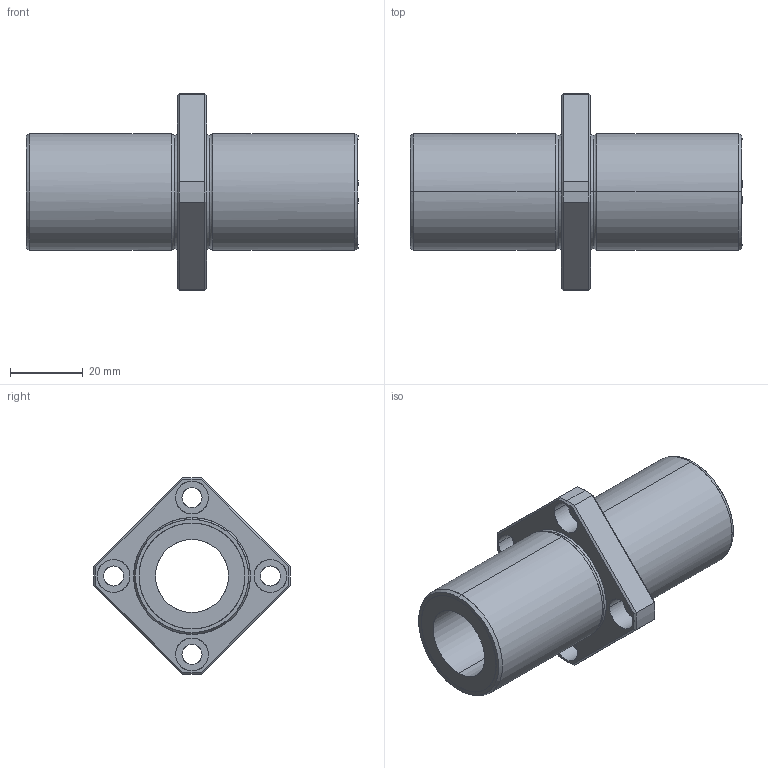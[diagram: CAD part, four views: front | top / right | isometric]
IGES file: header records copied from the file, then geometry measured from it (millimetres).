
Global section: file name: No Iges File Name specified; native system: AutoDesk Inventor R10; preprocessor: AutoDesk Inventor Iges Exporter R10; author: No Author specified; organization: No Organization specified; date: 20101216.153544; units: millimetre
Bounding box: 91 x 54 x 54 mm (x, y, z)
Surface area: 18665 mm2 (no closed solid volume)
Topology: 0 solids, 0 shells, 78 faces, 472 edges, 472 vertices
Faces by surface type: bspline 78
